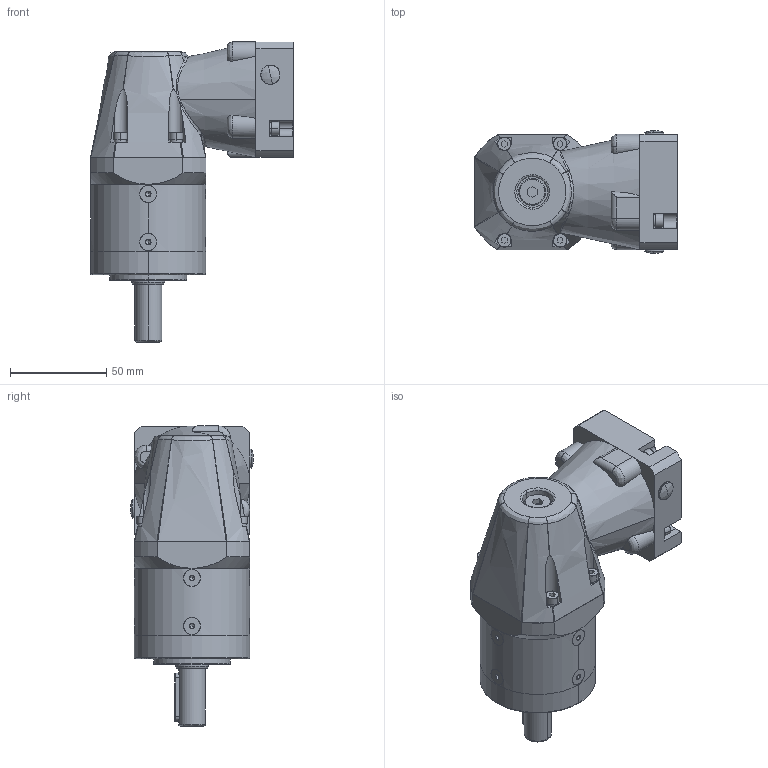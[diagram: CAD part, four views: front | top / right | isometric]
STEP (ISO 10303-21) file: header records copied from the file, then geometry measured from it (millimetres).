
FILE_DESCRIPTION (( 'STEP AP214' ), '1' );
FILE_NAME ('GSLR-060-0_ _-N023_-XX Single Stage.STEP', '2025-08-26T15:04:36', ( '' ), ( '' ), 'SwSTEP 2.0', 'SolidWorks 2020', '' );
FILE_SCHEMA (( 'AUTOMOTIVE_DESIGN' ));
Length unit declared in the file: millimetre
Products named in the file (1): GSLR-060-0_ _-N023_-XX Single Stage
Bounding box: 105.5 x 63.92 x 156.02 mm (x, y, z)
Volume: 255566.7 mm3; surface area: 132004.8 mm2
Topology: 56 solids, 56 shells, 1672 faces, 4327 edges, 2680 vertices
Faces by surface type: cylinder 503, bspline 490, plane 450, cone 229
Entity records: 69871 total; most frequent: CARTESIAN_POINT 31754, ORIENTED_EDGE 8386, DIRECTION 7177, EDGE_CURVE 4193, AXIS2_PLACEMENT_3D 2967, VERTEX_POINT 2680, EDGE_LOOP 1871, CIRCLE 1784
